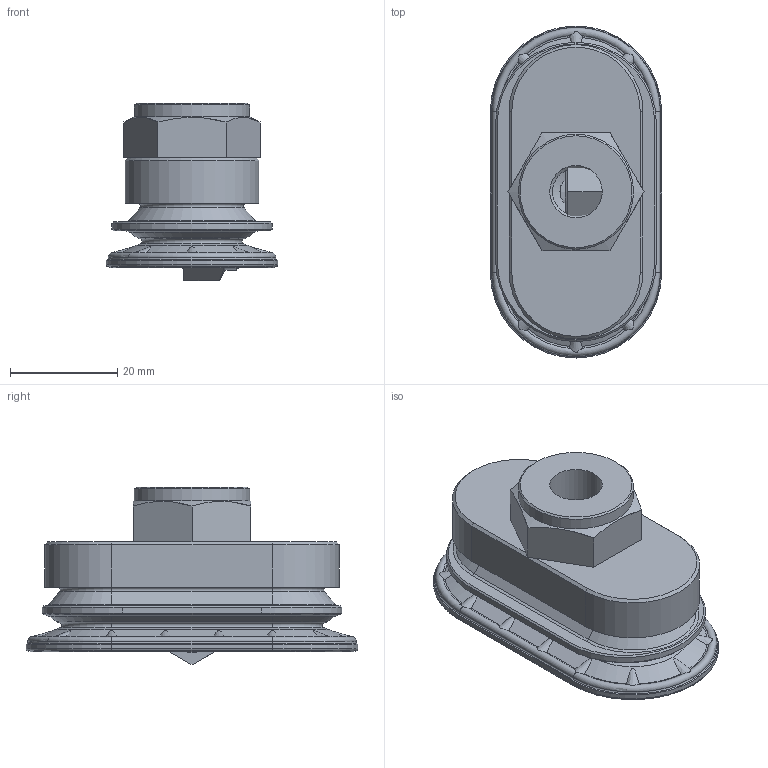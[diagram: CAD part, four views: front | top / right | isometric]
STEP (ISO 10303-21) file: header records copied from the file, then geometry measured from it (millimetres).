
FILE_DESCRIPTION( ( 'Unknown' ), '1' );
FILE_NAME( 'C:/Documents and Settings/Owner/官帕 拳搁/货 弃歹 (2)/VOBF30X60-18F.stp', 'Unknown', ( 'Unknown' ), ( 'Unknown' ), 'PSStep 10.0', 'Unknown', ' ' );
FILE_SCHEMA( ( 'AUTOMOTIVE_DESIGN { 1 0 10303 214 1 1 1 1 }' ) );
Length unit declared in the file: millimetre
Products named in the file (3): Assem1; VOBF 30x60_譆; VOBF 18F
Bounding box: 32 x 62 x 33.15 mm (x, y, z)
Surface area: 24808.2 mm2 (no closed solid volume)
Topology: 0 solids, 1432 shells, 1432 faces, 7172 edges, 7120 vertices
Faces by surface type: plane 820, cylinder 352, cone 208, torus 52
Full cylindrical faces by diameter (mm): 4.5 x4, 6 x2, 7 x4, 8.8 x2, 9.8 x2, 11.44 x2, 11.445 x2, 13.15 x2, 15 x2, 17 x2, 19 x2, 21.5 x2
Entity records: 44596 total; most frequent: CARTESIAN_POINT 13205, DIRECTION 4920, ORIENTED_EDGE 3556, EDGE_CURVE 3556, VERTEX_POINT 3556, LINE 1938, VECTOR 1938, AXIS2_PLACEMENT_3D 1491
